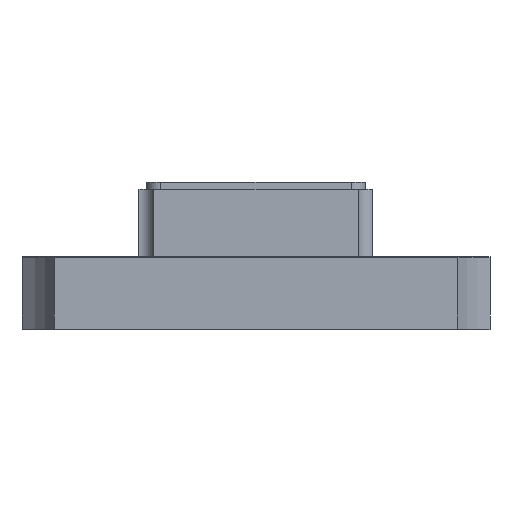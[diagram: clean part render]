
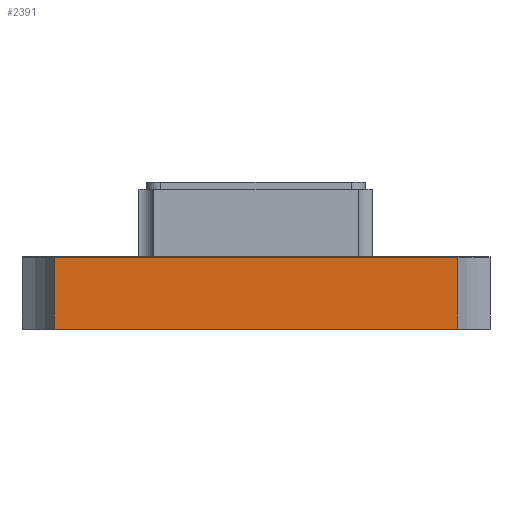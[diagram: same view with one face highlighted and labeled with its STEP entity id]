
A CAD part, left-side view. The second image highlights one B-rep face of the part: STEP entity #2391.
In plain terms, the highlighted planar face has unit normal (-1, 0, 0).
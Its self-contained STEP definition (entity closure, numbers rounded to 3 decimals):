
#32 = PLANE('',#33);
#33 = AXIS2_PLACEMENT_3D('',#34,#35,#36);
#34 = CARTESIAN_POINT('',(0.,0.,0.));
#35 = DIRECTION('',(0.,0.,1.));
#36 = DIRECTION('',(1.,0.,0.));
#974 = VERTEX_POINT('',#975);
#975 = CARTESIAN_POINT('',(-2.5,1.381,0.));
#990 = CYLINDRICAL_SURFACE('',#991,0.8);
#991 = AXIS2_PLACEMENT_3D('',#992,#993,#994);
#992 = CARTESIAN_POINT('',(-2.85,2.1,0.49));
#993 = DIRECTION('',(0.,0.,1.));
#994 = DIRECTION('',(1.,0.,0.));
#1002 = EDGE_CURVE('',#1003,#974,#1005,.T.);
#1003 = VERTEX_POINT('',#1004);
#1004 = CARTESIAN_POINT('',(-2.5,-1.381,0.));
#1005 = SURFACE_CURVE('',#1006,(#1010,#1017),.PCURVE_S1.);
#1006 = LINE('',#1007,#1008);
#1007 = CARTESIAN_POINT('',(-2.5,-1.6,0.));
#1008 = VECTOR('',#1009,1.);
#1009 = DIRECTION('',(0.,1.,0.));
#1010 = PCURVE('',#32,#1011);
#1011 = DEFINITIONAL_REPRESENTATION('',(#1012),#1016);
#1012 = LINE('',#1013,#1014);
#1013 = CARTESIAN_POINT('',(-2.5,-1.6));
#1014 = VECTOR('',#1015,1.);
#1015 = DIRECTION('',(0.,1.));
#1016 = ( GEOMETRIC_REPRESENTATION_CONTEXT(2) 
PARAMETRIC_REPRESENTATION_CONTEXT() REPRESENTATION_CONTEXT('2D SPACE',''
  ) );
#1017 = PCURVE('',#1018,#1023);
#1018 = PLANE('',#1019);
#1019 = AXIS2_PLACEMENT_3D('',#1020,#1021,#1022);
#1020 = CARTESIAN_POINT('',(-2.5,-1.6,0.));
#1021 = DIRECTION('',(-1.,0.,0.));
#1022 = DIRECTION('',(0.,1.,0.));
#1023 = DEFINITIONAL_REPRESENTATION('',(#1024),#1028);
#1024 = LINE('',#1025,#1026);
#1025 = CARTESIAN_POINT('',(0.,0.));
#1026 = VECTOR('',#1027,1.);
#1027 = DIRECTION('',(1.,0.));
#1028 = ( GEOMETRIC_REPRESENTATION_CONTEXT(2) 
PARAMETRIC_REPRESENTATION_CONTEXT() REPRESENTATION_CONTEXT('2D SPACE',''
  ) );
#1047 = CYLINDRICAL_SURFACE('',#1048,0.8);
#1048 = AXIS2_PLACEMENT_3D('',#1049,#1050,#1051);
#1049 = CARTESIAN_POINT('',(-2.85,-2.1,0.49));
#1050 = DIRECTION('',(0.,0.,1.));
#1051 = DIRECTION('',(1.,0.,0.));
#2292 = VERTEX_POINT('',#2293);
#2293 = CARTESIAN_POINT('',(-2.5,-1.381,0.49));
#2322 = EDGE_CURVE('',#1003,#2292,#2323,.T.);
#2323 = SURFACE_CURVE('',#2324,(#2328,#2335),.PCURVE_S1.);
#2324 = LINE('',#2325,#2326);
#2325 = CARTESIAN_POINT('',(-2.5,-1.381,0.49));
#2326 = VECTOR('',#2327,1.);
#2327 = DIRECTION('',(0.,0.,1.));
#2328 = PCURVE('',#1047,#2329);
#2329 = DEFINITIONAL_REPRESENTATION('',(#2330),#2334);
#2330 = LINE('',#2331,#2332);
#2331 = CARTESIAN_POINT('',(1.118,0.));
#2332 = VECTOR('',#2333,1.);
#2333 = DIRECTION('',(0.,1.));
#2334 = ( GEOMETRIC_REPRESENTATION_CONTEXT(2) 
PARAMETRIC_REPRESENTATION_CONTEXT() REPRESENTATION_CONTEXT('2D SPACE',''
  ) );
#2335 = PCURVE('',#1018,#2336);
#2336 = DEFINITIONAL_REPRESENTATION('',(#2337),#2341);
#2337 = LINE('',#2338,#2339);
#2338 = CARTESIAN_POINT('',(0.219,-0.49));
#2339 = VECTOR('',#2340,1.);
#2340 = DIRECTION('',(0.,-1.));
#2341 = ( GEOMETRIC_REPRESENTATION_CONTEXT(2) 
PARAMETRIC_REPRESENTATION_CONTEXT() REPRESENTATION_CONTEXT('2D SPACE',''
  ) );
#2391 = ADVANCED_FACE('',(#2392),#1018,.T.);
#2392 = FACE_BOUND('',#2393,.T.);
#2393 = EDGE_LOOP('',(#2394,#2395,#2396,#2424));
#2394 = ORIENTED_EDGE('',*,*,#1002,.F.);
#2395 = ORIENTED_EDGE('',*,*,#2322,.T.);
#2396 = ORIENTED_EDGE('',*,*,#2397,.T.);
#2397 = EDGE_CURVE('',#2292,#2398,#2400,.T.);
#2398 = VERTEX_POINT('',#2399);
#2399 = CARTESIAN_POINT('',(-2.5,1.381,0.49));
#2400 = SURFACE_CURVE('',#2401,(#2405,#2412),.PCURVE_S1.);
#2401 = LINE('',#2402,#2403);
#2402 = CARTESIAN_POINT('',(-2.5,-1.6,0.49));
#2403 = VECTOR('',#2404,1.);
#2404 = DIRECTION('',(0.,1.,0.));
#2405 = PCURVE('',#1018,#2406);
#2406 = DEFINITIONAL_REPRESENTATION('',(#2407),#2411);
#2407 = LINE('',#2408,#2409);
#2408 = CARTESIAN_POINT('',(0.,-0.49));
#2409 = VECTOR('',#2410,1.);
#2410 = DIRECTION('',(1.,0.));
#2411 = ( GEOMETRIC_REPRESENTATION_CONTEXT(2) 
PARAMETRIC_REPRESENTATION_CONTEXT() REPRESENTATION_CONTEXT('2D SPACE',''
  ) );
#2412 = PCURVE('',#2413,#2418);
#2413 = PLANE('',#2414);
#2414 = AXIS2_PLACEMENT_3D('',#2415,#2416,#2417);
#2415 = CARTESIAN_POINT('',(-2.5,-1.381,0.49));
#2416 = DIRECTION('',(-1.,0.,0.));
#2417 = DIRECTION('',(0.,1.,0.));
#2418 = DEFINITIONAL_REPRESENTATION('',(#2419),#2423);
#2419 = LINE('',#2420,#2421);
#2420 = CARTESIAN_POINT('',(-0.219,0.));
#2421 = VECTOR('',#2422,1.);
#2422 = DIRECTION('',(1.,0.));
#2423 = ( GEOMETRIC_REPRESENTATION_CONTEXT(2) 
PARAMETRIC_REPRESENTATION_CONTEXT() REPRESENTATION_CONTEXT('2D SPACE',''
  ) );
#2424 = ORIENTED_EDGE('',*,*,#2425,.F.);
#2425 = EDGE_CURVE('',#974,#2398,#2426,.T.);
#2426 = SURFACE_CURVE('',#2427,(#2431,#2438),.PCURVE_S1.);
#2427 = LINE('',#2428,#2429);
#2428 = CARTESIAN_POINT('',(-2.5,1.381,0.49));
#2429 = VECTOR('',#2430,1.);
#2430 = DIRECTION('',(0.,0.,1.));
#2431 = PCURVE('',#1018,#2432);
#2432 = DEFINITIONAL_REPRESENTATION('',(#2433),#2437);
#2433 = LINE('',#2434,#2435);
#2434 = CARTESIAN_POINT('',(2.981,-0.49));
#2435 = VECTOR('',#2436,1.);
#2436 = DIRECTION('',(0.,-1.));
#2437 = ( GEOMETRIC_REPRESENTATION_CONTEXT(2) 
PARAMETRIC_REPRESENTATION_CONTEXT() REPRESENTATION_CONTEXT('2D SPACE',''
  ) );
#2438 = PCURVE('',#990,#2439);
#2439 = DEFINITIONAL_REPRESENTATION('',(#2440),#2444);
#2440 = LINE('',#2441,#2442);
#2441 = CARTESIAN_POINT('',(5.165,0.));
#2442 = VECTOR('',#2443,1.);
#2443 = DIRECTION('',(0.,1.));
#2444 = ( GEOMETRIC_REPRESENTATION_CONTEXT(2) 
PARAMETRIC_REPRESENTATION_CONTEXT() REPRESENTATION_CONTEXT('2D SPACE',''
  ) );
